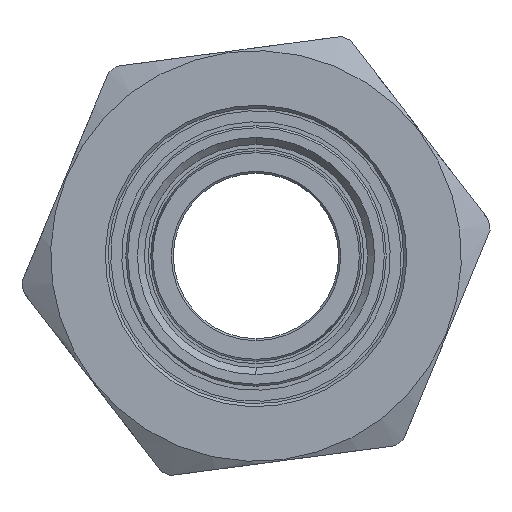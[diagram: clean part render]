
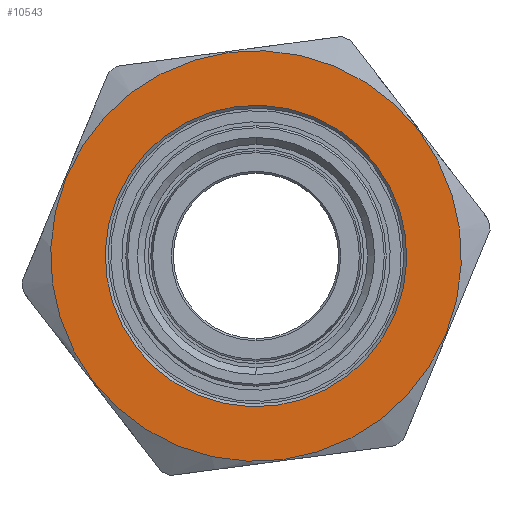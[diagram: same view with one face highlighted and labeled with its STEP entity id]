
A CAD part, left-side view. The second image highlights one B-rep face of the part: STEP entity #10543.
In plain terms, the highlighted planar face has unit normal (-1, 0, 0) as drawn and (1, 0, 0) by its records, which use the part's own axes.
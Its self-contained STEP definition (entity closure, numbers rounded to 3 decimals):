
#201 = CARTESIAN_POINT ( 'NONE',  ( 11., 0., -15.05 ) ) ;
#491 = CARTESIAN_POINT ( 'NONE',  ( 11., 0., 0. ) ) ;
#505 = DIRECTION ( 'NONE',  ( -1., 0., 0. ) ) ;
#542 = DIRECTION ( 'NONE',  ( -1., 0., 0. ) ) ;
#544 = DIRECTION ( 'NONE',  ( 0., 0., 1. ) ) ;
#548 = DIRECTION ( 'NONE',  ( 0., 0., 1. ) ) ;
#579 = CARTESIAN_POINT ( 'NONE',  ( 11., 0., 0. ) ) ;
#1660 = EDGE_LOOP ( 'NONE', ( #7041, #7048 ) ) ;
#1887 = VERTEX_POINT ( 'NONE', #7895 ) ;
#1894 = VERTEX_POINT ( 'NONE', #7903 ) ;
#1904 = VERTEX_POINT ( 'NONE', #7867 ) ;
#1923 = VERTEX_POINT ( 'NONE', #201 ) ;
#2227 = EDGE_LOOP ( 'NONE', ( #7061, #7032 ) ) ;
#2782 = DIRECTION ( 'NONE',  ( -1., 0., 0. ) ) ;
#2783 = PLANE ( 'NONE',  #6220 ) ;
#2787 = CARTESIAN_POINT ( 'NONE',  ( 11., 14.75, 0. ) ) ;
#2788 = DIRECTION ( 'NONE',  ( 0., 0., 1. ) ) ;
#3906 = DIRECTION ( 'NONE',  ( 0., 0., 1. ) ) ;
#3908 = CARTESIAN_POINT ( 'NONE',  ( 11., 0., 0. ) ) ;
#3920 = CARTESIAN_POINT ( 'NONE',  ( 11., 0., 0. ) ) ;
#3929 = DIRECTION ( 'NONE',  ( -1., 0., 0. ) ) ;
#3940 = DIRECTION ( 'NONE',  ( 0., 0., 1. ) ) ;
#4000 = DIRECTION ( 'NONE',  ( -1., 0., 0. ) ) ;
#5254 = CIRCLE ( 'NONE', #6127, 15.05 ) ;
#5255 = CIRCLE ( 'NONE', #6132, 20.5 ) ;
#5486 = FACE_OUTER_BOUND ( 'NONE', #1660, .T. ) ;
#5494 = FACE_BOUND ( 'NONE', #2227, .T. ) ;
#5756 = EDGE_CURVE ( 'NONE', #1904, #1894, #7266, .T. ) ;
#5757 = EDGE_CURVE ( 'NONE', #1923, #1887, #7273, .T. ) ;
#5969 = EDGE_CURVE ( 'NONE', #1887, #1923, #5254, .T. ) ;
#5970 = EDGE_CURVE ( 'NONE', #1894, #1904, #5255, .T. ) ;
#6056 = AXIS2_PLACEMENT_3D ( 'NONE', #579, #505, #548 ) ;
#6064 = AXIS2_PLACEMENT_3D ( 'NONE', #491, #542, #544 ) ;
#6127 = AXIS2_PLACEMENT_3D ( 'NONE', #3908, #4000, #3906 ) ;
#6132 = AXIS2_PLACEMENT_3D ( 'NONE', #3920, #3929, #3940 ) ;
#6220 = AXIS2_PLACEMENT_3D ( 'NONE', #2787, #2782, #2788 ) ;
#7032 = ORIENTED_EDGE ( 'NONE', *, *, #5969, .T. ) ;
#7041 = ORIENTED_EDGE ( 'NONE', *, *, #5756, .F. ) ;
#7048 = ORIENTED_EDGE ( 'NONE', *, *, #5970, .F. ) ;
#7061 = ORIENTED_EDGE ( 'NONE', *, *, #5757, .T. ) ;
#7266 = CIRCLE ( 'NONE', #6056, 20.5 ) ;
#7273 = CIRCLE ( 'NONE', #6064, 15.05 ) ;
#7867 = CARTESIAN_POINT ( 'NONE',  ( 11., 0., 20.5 ) ) ;
#7895 = CARTESIAN_POINT ( 'NONE',  ( 11., 0., 15.05 ) ) ;
#7903 = CARTESIAN_POINT ( 'NONE',  ( 11., 0., -20.5 ) ) ;
#10543 = ADVANCED_FACE ( 'NONE', ( #5494, #5486 ), #2783, .F. ) ;
